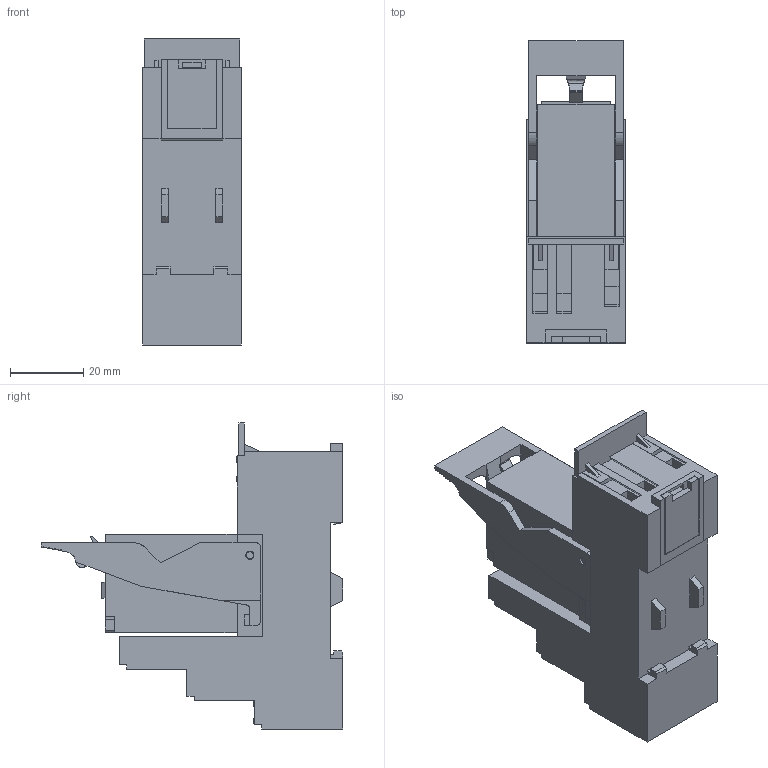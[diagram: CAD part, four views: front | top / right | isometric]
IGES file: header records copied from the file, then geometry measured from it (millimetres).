
Start section: SolidWorks IGES file using analytic representation for surfaces
Global section: file name: D:\X - Arquivos\PROEX\Empresas\P11 - METALTEX\01 - Produtos\IGES\6ª remessa\5ª etapa\PRT55 - PRY.IGS; native system: SolidWorks 2012; preprocessor: SolidWorks 2012; author: Usuario; date: 190327.094359; units: millimetre
Bounding box: 27 x 82.4 x 83.5 mm (x, y, z)
Surface area: 24739.6 mm2 (no closed solid volume)
Topology: 0 solids, 0 shells, 1461 faces, 12571 edges, 12571 vertices
Faces by surface type: bspline 1380, revolution 81
